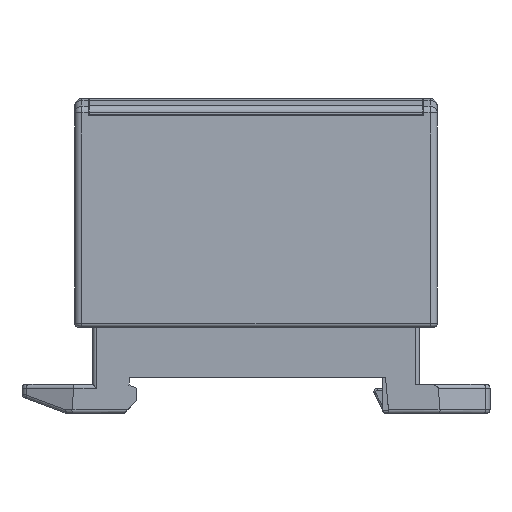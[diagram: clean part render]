
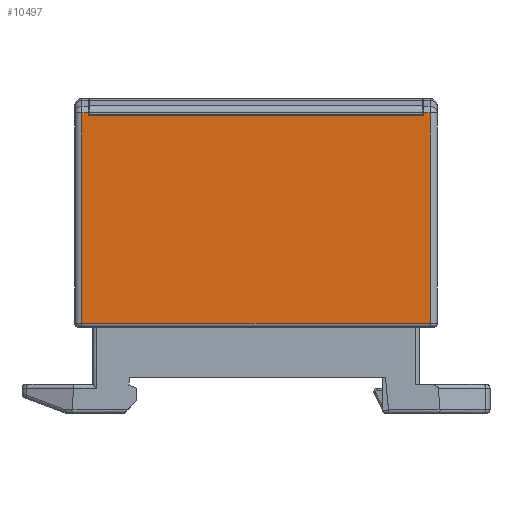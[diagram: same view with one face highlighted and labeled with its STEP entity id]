
A CAD part, left-side view. The second image highlights one B-rep face of the part: STEP entity #10497.
In plain terms, the highlighted planar face has unit normal (-1, 0, 0).
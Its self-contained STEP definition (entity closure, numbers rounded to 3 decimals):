
#1342=DIRECTION('',(0.,-1.,0.));
#1343=VECTOR('',#1342,48.);
#1344=CARTESIAN_POINT('',(-42.291,24.,
-31.));
#1345=LINE('',#1344,#1343);
#1346=DIRECTION('',(0.,0.,1.));
#1347=VECTOR('',#1346,29.015);
#1348=CARTESIAN_POINT('',(-42.291,24.,
-31.));
#1349=LINE('',#1348,#1347);
#1350=DIRECTION('',(0.,-1.,0.));
#1351=VECTOR('',#1350,0.9);
#1352=CARTESIAN_POINT('',(-42.291,24.,-1.985));
#1353=LINE('',#1352,#1351);
#1354=DIRECTION('',(0.,0.,-1.));
#1355=VECTOR('',#1354,0.315);
#1356=CARTESIAN_POINT('',(-42.291,23.1,-1.985));
#1357=LINE('',#1356,#1355);
#1358=DIRECTION('',(0.,1.,0.));
#1359=VECTOR('',#1358,46.2);
#1360=CARTESIAN_POINT('',(-42.291,-23.1,-2.3));
#1361=LINE('',#1360,#1359);
#1362=DIRECTION('',(0.,0.,-1.));
#1363=VECTOR('',#1362,0.315);
#1364=CARTESIAN_POINT('',(-42.291,-23.1,-1.985));
#1365=LINE('',#1364,#1363);
#1366=DIRECTION('',(0.,-1.,0.));
#1367=VECTOR('',#1366,0.9);
#1368=CARTESIAN_POINT('',(-42.291,-23.1,-1.985));
#1369=LINE('',#1368,#1367);
#1370=DIRECTION('',(0.,0.,-1.));
#1371=VECTOR('',#1370,29.015);
#1372=CARTESIAN_POINT('',(-42.291,-24.,-1.985));
#1373=LINE('',#1372,#1371);
#7860=CARTESIAN_POINT('',(-42.291,-23.1,-2.3));
#7861=CARTESIAN_POINT('',(-42.291,23.1,-2.3));
#7862=VERTEX_POINT('',#7860);
#7863=VERTEX_POINT('',#7861);
#7864=CARTESIAN_POINT('',(-42.291,23.1,-1.985));
#7865=VERTEX_POINT('',#7864);
#7866=CARTESIAN_POINT('',(-42.291,-23.1,-1.985));
#7867=VERTEX_POINT('',#7866);
#8123=CARTESIAN_POINT('',(-42.291,-24.,-1.985));
#8125=VERTEX_POINT('',#8123);
#8182=CARTESIAN_POINT('',(-42.291,24.,-1.985));
#8183=VERTEX_POINT('',#8182);
#8200=CARTESIAN_POINT('',(-42.291,24.,-31.));
#8201=VERTEX_POINT('',#8200);
#8204=CARTESIAN_POINT('',(-42.291,-24.,
-31.));
#8205=VERTEX_POINT('',#8204);
#10478=CARTESIAN_POINT('',(-42.291,25.,-1.985));
#10479=DIRECTION('',(-1.,0.,0.));
#10480=DIRECTION('',(0.,0.,-1.));
#10481=AXIS2_PLACEMENT_3D('',#10478,#10479,#10480);
#10482=PLANE('',#10481);
#10484=ORIENTED_EDGE('',*,*,#10483,.F.);
#10485=ORIENTED_EDGE('',*,*,#8742,.T.);
#10486=ORIENTED_EDGE('',*,*,#10473,.T.);
#10488=ORIENTED_EDGE('',*,*,#10487,.T.);
#10490=ORIENTED_EDGE('',*,*,#10489,.F.);
#10492=ORIENTED_EDGE('',*,*,#10491,.F.);
#10493=ORIENTED_EDGE('',*,*,#10453,.T.);
#10494=ORIENTED_EDGE('',*,*,#9797,.T.);
#10495=EDGE_LOOP('',(#10484,#10485,#10486,#10488,#10490,#10492,#10493,#10494));
#10496=FACE_OUTER_BOUND('',#10495,.F.);
#8742=EDGE_CURVE('',#8201,#8183,#1349,.T.);
#9797=EDGE_CURVE('',#8125,#8205,#1373,.T.);
#10453=EDGE_CURVE('',#7867,#8125,#1369,.T.);
#10473=EDGE_CURVE('',#8183,#7865,#1353,.T.);
#10483=EDGE_CURVE('',#8201,#8205,#1345,.T.);
#10487=EDGE_CURVE('',#7865,#7863,#1357,.T.);
#10489=EDGE_CURVE('',#7862,#7863,#1361,.T.);
#10491=EDGE_CURVE('',#7867,#7862,#1365,.T.);
#10497=ADVANCED_FACE('',(#10496),#10482,.T.);
